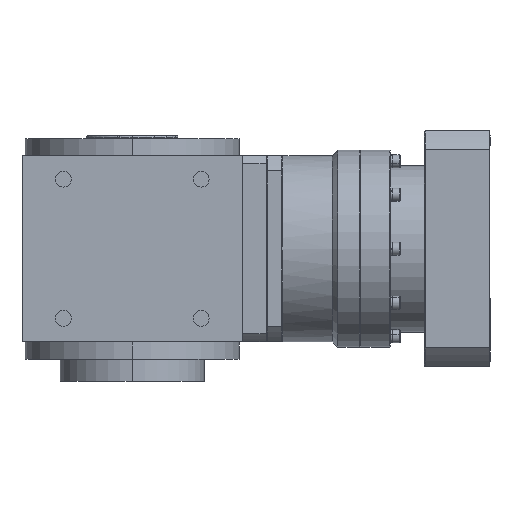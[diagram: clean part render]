
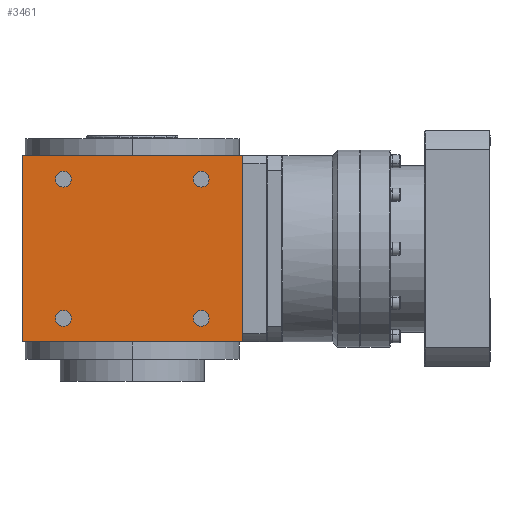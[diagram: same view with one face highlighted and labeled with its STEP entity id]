
A CAD part, left-side view. The second image highlights one B-rep face of the part: STEP entity #3461.
In plain terms, the highlighted planar face has unit normal (-1, 0, 0).
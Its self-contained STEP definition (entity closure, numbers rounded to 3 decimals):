
#48 = EDGE_LOOP ( 'NONE', ( #35076, #5771 ) ) ;
#56 = DIRECTION ( 'NONE',  ( 1., 0., 0. ) ) ;
#414 = CARTESIAN_POINT ( 'NONE',  ( -84., -52.5, -53. ) ) ;
#665 = CIRCLE ( 'NONE', #23902, 6. ) ;
#806 = DIRECTION ( 'NONE',  ( 1., 0., 0. ) ) ;
#937 = LINE ( 'NONE', #9710, #23268 ) ;
#1448 = EDGE_CURVE ( 'NONE', #14481, #15048, #27743, .T. ) ;
#2350 = VERTEX_POINT ( 'NONE', #10563 ) ;
#2549 = EDGE_LOOP ( 'NONE', ( #30449, #10752 ) ) ;
#2556 = FACE_OUTER_BOUND ( 'NONE', #9555, .T. ) ;
#3461 = ADVANCED_FACE ( 'NONE', ( #27791, #7595, #18994, #10617, #2556 ), #25354, .T. ) ;
#4000 = DIRECTION ( 'NONE',  ( 0., -1., 0. ) ) ;
#4194 = ORIENTED_EDGE ( 'NONE', *, *, #11557, .F. ) ;
#4318 = VERTEX_POINT ( 'NONE', #5638 ) ;
#4407 = DIRECTION ( 'NONE',  ( 1., 0., 0. ) ) ;
#4867 = DIRECTION ( 'NONE',  ( 0., -1., 0. ) ) ;
#5533 = ORIENTED_EDGE ( 'NONE', *, *, #8045, .T. ) ;
#5638 = CARTESIAN_POINT ( 'NONE',  ( -84., 84., 71. ) ) ;
#5745 = CARTESIAN_POINT ( 'NONE',  ( -84., 58.5, -53. ) ) ;
#5771 = ORIENTED_EDGE ( 'NONE', *, *, #9220, .T. ) ;
#5965 = VECTOR ( 'NONE', #27583, 1000. ) ;
#5970 = LINE ( 'NONE', #20335, #24559 ) ;
#6377 = AXIS2_PLACEMENT_3D ( 'NONE', #12726, #9359, #11993 ) ;
#6808 = CARTESIAN_POINT ( 'NONE',  ( -84., 84., -71. ) ) ;
#7424 = ORIENTED_EDGE ( 'NONE', *, *, #29526, .T. ) ;
#7501 = VERTEX_POINT ( 'NONE', #31973 ) ;
#7595 = FACE_BOUND ( 'NONE', #48, .T. ) ;
#7627 = ORIENTED_EDGE ( 'NONE', *, *, #16923, .T. ) ;
#8045 = EDGE_CURVE ( 'NONE', #29934, #7501, #35644, .T. ) ;
#8255 = EDGE_LOOP ( 'NONE', ( #30839, #26313 ) ) ;
#8480 = VERTEX_POINT ( 'NONE', #10739 ) ;
#8768 = CIRCLE ( 'NONE', #6377, 6. ) ;
#8961 = DIRECTION ( 'NONE',  ( 0., 0., 1. ) ) ;
#9220 = EDGE_CURVE ( 'NONE', #24137, #2350, #25789, .T. ) ;
#9256 = LINE ( 'NONE', #6808, #16286 ) ;
#9359 = DIRECTION ( 'NONE',  ( 1., 0., 0. ) ) ;
#9555 = EDGE_LOOP ( 'NONE', ( #34474, #34039, #4194, #7627 ) ) ;
#9710 = CARTESIAN_POINT ( 'NONE',  ( -84., -84., -71. ) ) ;
#9796 = CIRCLE ( 'NONE', #29463, 6. ) ;
#10253 = CARTESIAN_POINT ( 'NONE',  ( -84., 58.5, 53. ) ) ;
#10563 = CARTESIAN_POINT ( 'NONE',  ( -84., 46.5, -53. ) ) ;
#10617 = FACE_BOUND ( 'NONE', #15819, .T. ) ;
#10634 = DIRECTION ( 'NONE',  ( 1., 0., 0. ) ) ;
#10702 = CARTESIAN_POINT ( 'NONE',  ( -84., -52.5, 53. ) ) ;
#10739 = CARTESIAN_POINT ( 'NONE',  ( -84., 84., -71. ) ) ;
#10752 = ORIENTED_EDGE ( 'NONE', *, *, #1448, .T. ) ;
#10806 = DIRECTION ( 'NONE',  ( 0., 0., 1. ) ) ;
#11184 = VERTEX_POINT ( 'NONE', #26724 ) ;
#11557 = EDGE_CURVE ( 'NONE', #8480, #4318, #5970, .T. ) ;
#11993 = DIRECTION ( 'NONE',  ( 0., -1., 0. ) ) ;
#12204 = CARTESIAN_POINT ( 'NONE',  ( -84., -52.5, 53. ) ) ;
#12390 = DIRECTION ( 'NONE',  ( 0., -1., 0. ) ) ;
#12726 = CARTESIAN_POINT ( 'NONE',  ( -84., 52.5, 53. ) ) ;
#13237 = AXIS2_PLACEMENT_3D ( 'NONE', #12204, #806, #12390 ) ;
#13250 = DIRECTION ( 'NONE',  ( 1., 0., 0. ) ) ;
#13446 = CARTESIAN_POINT ( 'NONE',  ( -84., 52.5, -53. ) ) ;
#13934 = DIRECTION ( 'NONE',  ( 1., 0., 0. ) ) ;
#14361 = CARTESIAN_POINT ( 'NONE',  ( -84., -58.5, 53. ) ) ;
#14481 = VERTEX_POINT ( 'NONE', #16979 ) ;
#14615 = AXIS2_PLACEMENT_3D ( 'NONE', #10702, #30292, #4867 ) ;
#15048 = VERTEX_POINT ( 'NONE', #14361 ) ;
#15370 = EDGE_CURVE ( 'NONE', #17841, #11184, #9796, .T. ) ;
#15819 = EDGE_LOOP ( 'NONE', ( #7424, #5533 ) ) ;
#15830 = DIRECTION ( 'NONE',  ( 0., -1., 0. ) ) ;
#16207 = CARTESIAN_POINT ( 'NONE',  ( -84., 84., -71. ) ) ;
#16286 = VECTOR ( 'NONE', #4000, 1000. ) ;
#16923 = EDGE_CURVE ( 'NONE', #8480, #27253, #9256, .T. ) ;
#16955 = DIRECTION ( 'NONE',  ( 0., -1., 0. ) ) ;
#16979 = CARTESIAN_POINT ( 'NONE',  ( -84., -46.5, 53. ) ) ;
#17389 = EDGE_CURVE ( 'NONE', #15048, #14481, #28744, .T. ) ;
#17841 = VERTEX_POINT ( 'NONE', #20241 ) ;
#18030 = EDGE_CURVE ( 'NONE', #2350, #24137, #20442, .T. ) ;
#18645 = DIRECTION ( 'NONE',  ( 0., -1., 0. ) ) ;
#18994 = FACE_BOUND ( 'NONE', #8255, .T. ) ;
#20241 = CARTESIAN_POINT ( 'NONE',  ( -84., -46.5, -53. ) ) ;
#20335 = CARTESIAN_POINT ( 'NONE',  ( -84., 84., -71. ) ) ;
#20442 = CIRCLE ( 'NONE', #21014, 6. ) ;
#21014 = AXIS2_PLACEMENT_3D ( 'NONE', #30414, #10634, #16955 ) ;
#22540 = VERTEX_POINT ( 'NONE', #28759 ) ;
#23268 = VECTOR ( 'NONE', #27082, 1000. ) ;
#23902 = AXIS2_PLACEMENT_3D ( 'NONE', #414, #56, #34615 ) ;
#24137 = VERTEX_POINT ( 'NONE', #5745 ) ;
#24185 = AXIS2_PLACEMENT_3D ( 'NONE', #16207, #27594, #10806 ) ;
#24559 = VECTOR ( 'NONE', #8961, 1000. ) ;
#24963 = DIRECTION ( 'NONE',  ( 0., -1., 0. ) ) ;
#24979 = CARTESIAN_POINT ( 'NONE',  ( -84., 0., 71. ) ) ;
#25354 = PLANE ( 'NONE',  #24185 ) ;
#25789 = CIRCLE ( 'NONE', #36585, 6. ) ;
#26313 = ORIENTED_EDGE ( 'NONE', *, *, #15370, .T. ) ;
#26724 = CARTESIAN_POINT ( 'NONE',  ( -84., -58.5, -53. ) ) ;
#27082 = DIRECTION ( 'NONE',  ( 0., 0., 1. ) ) ;
#27253 = VERTEX_POINT ( 'NONE', #36767 ) ;
#27583 = DIRECTION ( 'NONE',  ( 0., -1., 0. ) ) ;
#27594 = DIRECTION ( 'NONE',  ( -1., 0., 0. ) ) ;
#27743 = CIRCLE ( 'NONE', #14615, 6. ) ;
#27791 = FACE_BOUND ( 'NONE', #2549, .T. ) ;
#28452 = EDGE_CURVE ( 'NONE', #4318, #22540, #36410, .T. ) ;
#28483 = AXIS2_PLACEMENT_3D ( 'NONE', #32982, #13934, #24963 ) ;
#28744 = CIRCLE ( 'NONE', #13237, 6. ) ;
#28759 = CARTESIAN_POINT ( 'NONE',  ( -84., -84., 71. ) ) ;
#29346 = EDGE_CURVE ( 'NONE', #11184, #17841, #665, .T. ) ;
#29463 = AXIS2_PLACEMENT_3D ( 'NONE', #33192, #4407, #15830 ) ;
#29526 = EDGE_CURVE ( 'NONE', #7501, #29934, #8768, .T. ) ;
#29934 = VERTEX_POINT ( 'NONE', #10253 ) ;
#30292 = DIRECTION ( 'NONE',  ( 1., 0., 0. ) ) ;
#30414 = CARTESIAN_POINT ( 'NONE',  ( -84., 52.5, -53. ) ) ;
#30449 = ORIENTED_EDGE ( 'NONE', *, *, #17389, .T. ) ;
#30839 = ORIENTED_EDGE ( 'NONE', *, *, #29346, .T. ) ;
#31973 = CARTESIAN_POINT ( 'NONE',  ( -84., 46.5, 53. ) ) ;
#32966 = EDGE_CURVE ( 'NONE', #27253, #22540, #937, .T. ) ;
#32982 = CARTESIAN_POINT ( 'NONE',  ( -84., 52.5, 53. ) ) ;
#33192 = CARTESIAN_POINT ( 'NONE',  ( -84., -52.5, -53. ) ) ;
#34039 = ORIENTED_EDGE ( 'NONE', *, *, #28452, .F. ) ;
#34474 = ORIENTED_EDGE ( 'NONE', *, *, #32966, .T. ) ;
#34615 = DIRECTION ( 'NONE',  ( 0., -1., 0. ) ) ;
#35076 = ORIENTED_EDGE ( 'NONE', *, *, #18030, .T. ) ;
#35644 = CIRCLE ( 'NONE', #28483, 6. ) ;
#36410 = LINE ( 'NONE', #24979, #5965 ) ;
#36585 = AXIS2_PLACEMENT_3D ( 'NONE', #13446, #13250, #18645 ) ;
#36767 = CARTESIAN_POINT ( 'NONE',  ( -84., -84., -71. ) ) ;
